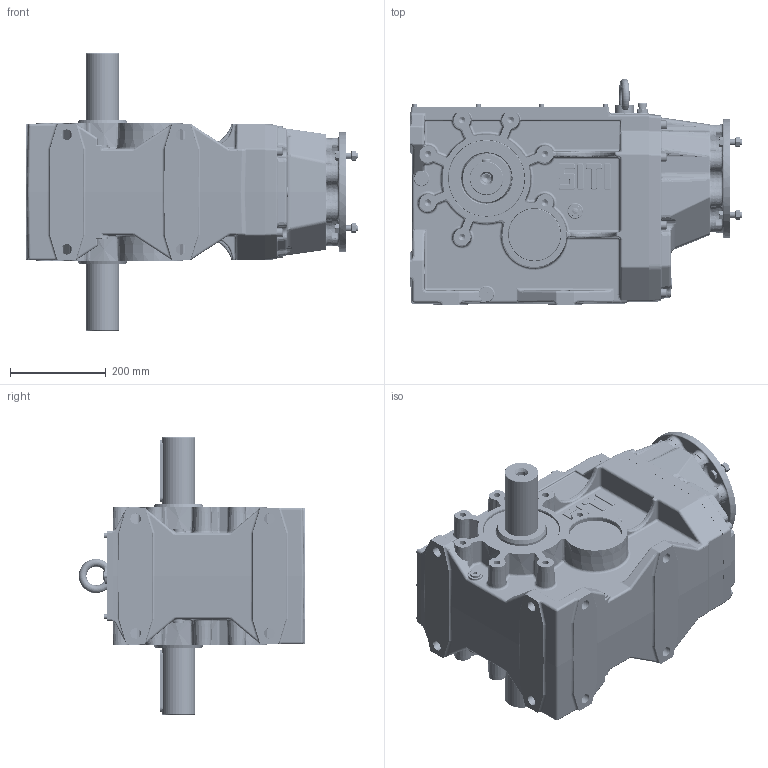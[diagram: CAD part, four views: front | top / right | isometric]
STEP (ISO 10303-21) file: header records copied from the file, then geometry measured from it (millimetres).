
FILE_DESCRIPTION((''),'2;1');
FILE_NAME('C:\Users\m.piscopiello.SITIRIDUTTORI\Desktop\3D x SITO\MBH 140 PAM 100-112\MBH_140 MD PAM 100-112 B5.stp','2013-05-28T12:55:37',('m.piscopiello'),(''),'Autodesk Inventor 2012','Autodesk Inventor 2012','');
FILE_SCHEMA(('CONFIG_CONTROL_DESIGN'));
Length unit declared in the file: millimetre
Products named in the file (1): MBH_140 MD PAM 100-112 B5
Bounding box: 695 x 473.99 x 580 mm (x, y, z)
Volume: 20440805.3 mm3; surface area: 2798454.6 mm2
Topology: 69 solids, 71 shells, 4275 faces, 10238 edges, 6099 vertices
Faces by surface type: plane 1192, cylinder 1146, bspline 921, torus 475, cone 400, sphere 141
Full cylindrical faces by diameter (mm): 3.15 x2, 3.5 x2, 4.917 x10, 6 x20, 6.4 x10, 7 x10, 10 x10, 10.106 x16, 12 x54, 12.5 x12, 13 x16, 13.835 x14, 14 x4, 14.95 x2, 16 x1, 16.6 x6, 17.294 x3, 17.835 x2, 18 x16, 19.5 x1, 20.5 x16, 21 x2, 22 x9, 25 x1, 26 x1, 30 x3, 38 x1, 40 x1, 70 x2, 71.938 x1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
Entity records: 163298 total; most frequent: CARTESIAN_POINT 68990, ORIENTED_EDGE 18484, DIRECTION 17854, EDGE_CURVE 9242, AXIS2_PLACEMENT_3D 7586, VERTEX_POINT 5828, EDGE_LOOP 5127, STYLED_ITEM 4343
